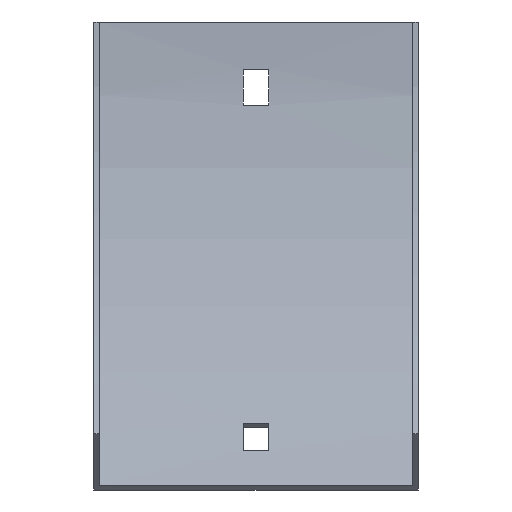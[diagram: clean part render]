
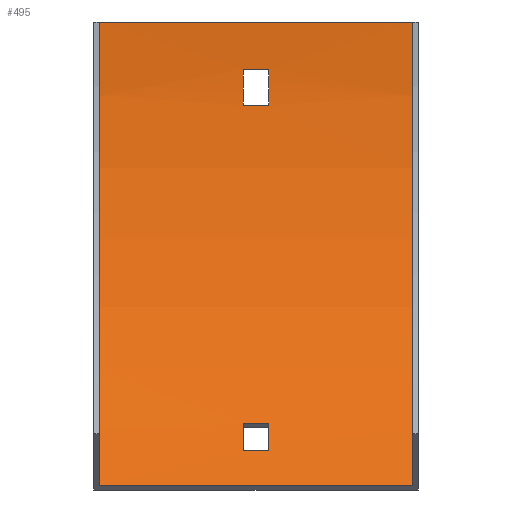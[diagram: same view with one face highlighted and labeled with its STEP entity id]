
A CAD part, front view. The second image highlights one B-rep face of the part: STEP entity #495.
In plain terms, the highlighted cylindrical face has radius 165.5 mm (diameter 331 mm), a partial arc.
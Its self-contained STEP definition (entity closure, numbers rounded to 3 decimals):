
#2 = VERTEX_POINT ( 'NONE', #120 ) ;
#3 = LINE ( 'NONE', #102, #388 ) ;
#9 = EDGE_CURVE ( 'NONE', #327, #340, #215, .T. ) ;
#16 = VERTEX_POINT ( 'NONE', #454 ) ;
#18 = CARTESIAN_POINT ( 'NONE',  ( 39.5, -49.974, -117.026 ) ) ;
#34 = DIRECTION ( 'NONE',  ( 0., 0., -1. ) ) ;
#44 = CARTESIAN_POINT ( 'NONE',  ( -39.5, -49.974, -117.026 ) ) ;
#48 = ORIENTED_EDGE ( 'NONE', *, *, #278, .F. ) ;
#49 = DIRECTION ( 'NONE',  ( 0., 0., 1. ) ) ;
#50 = ORIENTED_EDGE ( 'NONE', *, *, #9, .F. ) ;
#60 = CARTESIAN_POINT ( 'NONE',  ( 3.25, -1.936, -12. ) ) ;
#63 = EDGE_CURVE ( 'NONE', #334, #16, #581, .T. ) ;
#75 = DIRECTION ( 'NONE',  ( 1., 0., 0. ) ) ;
#90 = ORIENTED_EDGE ( 'NONE', *, *, #166, .F. ) ;
#91 = AXIS2_PLACEMENT_3D ( 'NONE', #571, #152, #222 ) ;
#102 = CARTESIAN_POINT ( 'NONE',  ( 41., -41.797, -108.233 ) ) ;
#110 = CIRCLE ( 'NONE', #91, 165.5 ) ;
#116 = ORIENTED_EDGE ( 'NONE', *, *, #323, .T. ) ;
#117 = FACE_BOUND ( 'NONE', #254, .T. ) ;
#119 = CARTESIAN_POINT ( 'NONE',  ( -3.25, -2.838, -21. ) ) ;
#120 = CARTESIAN_POINT ( 'NONE',  ( 3.25, -41.797, -108.233 ) ) ;
#121 = LINE ( 'NONE', #549, #206 ) ;
#133 = FACE_OUTER_BOUND ( 'NONE', #395, .T. ) ;
#136 = CIRCLE ( 'NONE', #324, 165.5 ) ;
#138 = VERTEX_POINT ( 'NONE', #544 ) ;
#140 = CARTESIAN_POINT ( 'NONE',  ( -3.25, -167., 0. ) ) ;
#142 = EDGE_CURVE ( 'NONE', #460, #347, #196, .T. ) ;
#144 = EDGE_CURVE ( 'NONE', #461, #168, #121, .T. ) ;
#152 = DIRECTION ( 'NONE',  ( 1., 0., 0. ) ) ;
#159 = DIRECTION ( 'NONE',  ( -1., 0., 0. ) ) ;
#166 = EDGE_CURVE ( 'NONE', #347, #521, #455, .T. ) ;
#168 = VERTEX_POINT ( 'NONE', #414 ) ;
#170 = VECTOR ( 'NONE', #290, 1000. ) ;
#174 = DIRECTION ( 'NONE',  ( 0., 0., -1. ) ) ;
#186 = LINE ( 'NONE', #282, #400 ) ;
#188 = AXIS2_PLACEMENT_3D ( 'NONE', #242, #394, #487 ) ;
#189 = DIRECTION ( 'NONE',  ( 1., 0., 0. ) ) ;
#193 = VECTOR ( 'NONE', #304, 1000. ) ;
#196 = CIRCLE ( 'NONE', #363, 165.5 ) ;
#206 = VECTOR ( 'NONE', #312, 1000. ) ;
#215 = LINE ( 'NONE', #18, #193 ) ;
#220 = CARTESIAN_POINT ( 'NONE',  ( 3.25, -167., 0. ) ) ;
#222 = DIRECTION ( 'NONE',  ( 0., 0., 1. ) ) ;
#242 = CARTESIAN_POINT ( 'NONE',  ( -39.5, -167., 0. ) ) ;
#244 = ORIENTED_EDGE ( 'NONE', *, *, #358, .F. ) ;
#252 = ORIENTED_EDGE ( 'NONE', *, *, #345, .F. ) ;
#254 = EDGE_LOOP ( 'NONE', ( #116, #326, #313, #445 ) ) ;
#266 = EDGE_CURVE ( 'NONE', #16, #138, #186, .T. ) ;
#268 = CARTESIAN_POINT ( 'NONE',  ( 41., -1.936, -12. ) ) ;
#270 = CARTESIAN_POINT ( 'NONE',  ( -3.25, -1.936, -12. ) ) ;
#278 = EDGE_CURVE ( 'NONE', #557, #460, #554, .T. ) ;
#282 = CARTESIAN_POINT ( 'NONE',  ( 41., -36.071, -101.231 ) ) ;
#287 = ORIENTED_EDGE ( 'NONE', *, *, #465, .T. ) ;
#290 = DIRECTION ( 'NONE',  ( 1., 0., 0. ) ) ;
#302 = VECTOR ( 'NONE', #500, 1000. ) ;
#304 = DIRECTION ( 'NONE',  ( -1., 0., 0. ) ) ;
#311 = CARTESIAN_POINT ( 'NONE',  ( -3.25, -167., 0. ) ) ;
#312 = DIRECTION ( 'NONE',  ( -1., 0., 0. ) ) ;
#313 = ORIENTED_EDGE ( 'NONE', *, *, #266, .T. ) ;
#323 = EDGE_CURVE ( 'NONE', #2, #334, #3, .T. ) ;
#324 = AXIS2_PLACEMENT_3D ( 'NONE', #140, #476, #49 ) ;
#326 = ORIENTED_EDGE ( 'NONE', *, *, #63, .T. ) ;
#327 = VERTEX_POINT ( 'NONE', #463 ) ;
#334 = VERTEX_POINT ( 'NONE', #375 ) ;
#340 = VERTEX_POINT ( 'NONE', #44 ) ;
#345 = EDGE_CURVE ( 'NONE', #521, #557, #136, .T. ) ;
#347 = VERTEX_POINT ( 'NONE', #60 ) ;
#358 = EDGE_CURVE ( 'NONE', #340, #168, #376, .T. ) ;
#360 = CARTESIAN_POINT ( 'NONE',  ( 3.25, -167., 0. ) ) ;
#362 = CIRCLE ( 'NONE', #432, 165.5 ) ;
#363 = AXIS2_PLACEMENT_3D ( 'NONE', #220, #75, #174 ) ;
#368 = DIRECTION ( 'NONE',  ( 0., 0., 1. ) ) ;
#375 = CARTESIAN_POINT ( 'NONE',  ( -3.25, -41.797, -108.233 ) ) ;
#376 = CIRCLE ( 'NONE', #188, 165.5 ) ;
#377 = ORIENTED_EDGE ( 'NONE', *, *, #144, .T. ) ;
#380 = EDGE_LOOP ( 'NONE', ( #252, #90, #383, #48 ) ) ;
#383 = ORIENTED_EDGE ( 'NONE', *, *, #142, .F. ) ;
#388 = VECTOR ( 'NONE', #606, 1000. ) ;
#391 = CARTESIAN_POINT ( 'NONE',  ( 39.5, -1.5, 0. ) ) ;
#394 = DIRECTION ( 'NONE',  ( 1., 0., 0. ) ) ;
#395 = EDGE_LOOP ( 'NONE', ( #244, #50, #287, #377 ) ) ;
#399 = AXIS2_PLACEMENT_3D ( 'NONE', #311, #496, #34 ) ;
#400 = VECTOR ( 'NONE', #189, 1000. ) ;
#414 = CARTESIAN_POINT ( 'NONE',  ( -39.5, -1.5, 0. ) ) ;
#425 = CARTESIAN_POINT ( 'NONE',  ( 41., -2.838, -21. ) ) ;
#432 = AXIS2_PLACEMENT_3D ( 'NONE', #360, #159, #368 ) ;
#441 = FACE_BOUND ( 'NONE', #380, .T. ) ;
#444 = AXIS2_PLACEMENT_3D ( 'NONE', #587, #531, #457 ) ;
#445 = ORIENTED_EDGE ( 'NONE', *, *, #473, .T. ) ;
#454 = CARTESIAN_POINT ( 'NONE',  ( -3.25, -36.071, -101.231 ) ) ;
#455 = LINE ( 'NONE', #268, #302 ) ;
#457 = DIRECTION ( 'NONE',  ( 0., 0., 1. ) ) ;
#460 = VERTEX_POINT ( 'NONE', #579 ) ;
#461 = VERTEX_POINT ( 'NONE', #391 ) ;
#463 = CARTESIAN_POINT ( 'NONE',  ( 39.5, -49.974, -117.026 ) ) ;
#465 = EDGE_CURVE ( 'NONE', #327, #461, #110, .T. ) ;
#473 = EDGE_CURVE ( 'NONE', #138, #2, #362, .T. ) ;
#476 = DIRECTION ( 'NONE',  ( -1., 0., 0. ) ) ;
#487 = DIRECTION ( 'NONE',  ( 0., 0., 1. ) ) ;
#495 = ADVANCED_FACE ( 'NONE', ( #441, #133, #117 ), #583, .F. ) ;
#496 = DIRECTION ( 'NONE',  ( 1., 0., 0. ) ) ;
#500 = DIRECTION ( 'NONE',  ( -1., 0., 0. ) ) ;
#521 = VERTEX_POINT ( 'NONE', #270 ) ;
#531 = DIRECTION ( 'NONE',  ( -1., 0., 0. ) ) ;
#544 = CARTESIAN_POINT ( 'NONE',  ( 3.25, -36.071, -101.231 ) ) ;
#549 = CARTESIAN_POINT ( 'NONE',  ( 39.5, -1.5, 0. ) ) ;
#554 = LINE ( 'NONE', #425, #170 ) ;
#557 = VERTEX_POINT ( 'NONE', #119 ) ;
#571 = CARTESIAN_POINT ( 'NONE',  ( 39.5, -167., 0. ) ) ;
#579 = CARTESIAN_POINT ( 'NONE',  ( 3.25, -2.838, -21. ) ) ;
#581 = CIRCLE ( 'NONE', #399, 165.5 ) ;
#583 = CYLINDRICAL_SURFACE ( 'NONE', #444, 165.5 ) ;
#587 = CARTESIAN_POINT ( 'NONE',  ( 41., -167., 0. ) ) ;
#606 = DIRECTION ( 'NONE',  ( -1., 0., 0. ) ) ;
